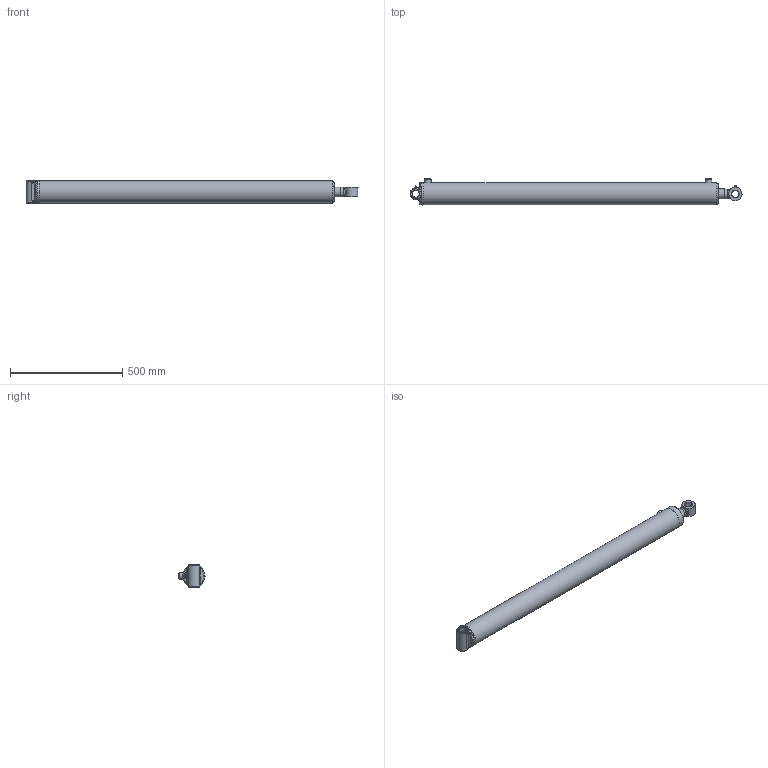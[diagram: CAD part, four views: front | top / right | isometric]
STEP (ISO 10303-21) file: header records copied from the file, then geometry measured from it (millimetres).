
FILE_DESCRIPTION(/* description */ ('Ø3.50 X 48.00 DA'),/* implementation_level */ '2;1');
FILE_NAME(/* name */ 'result.stp',/* time_stamp */ '2024-04-05T19:26:03Z',/* author */ ('AJC'),/* organization */ ('PRINCE MANUFACTURING'),/* preprocessor_version */ 'ST-DEVELOPER v20',/* originating_system */ 'Autodesk Inventor 2024',/* authorisation */ '');
FILE_SCHEMA (('AUTOMOTIVE_DESIGN { 1 0 10303 214 3 1 1 }'));
Length unit declared in the file: inch
Products named in the file (21): PC3548017A00-560XYXA; 0617-XYSF000-51570; 0517-T-51570; 161700179; 200015603; 06Weld1_C360; 0717-P-100; 220000210; 0817-G-175; 230025105; 230025005; 240000022; 240061338; 240000338; 0210A-HAW5-53687XA; 0110A-HAW5-53687; 210600529; 02Weld_C360; 240020007; 250014175; 270010020
Assembly tree (22 placements, depth 3):
  PC3548017A00-560XYXA
    0617-XYSF000-51570
      0517-T-51570
      161700179
      200015603  x2
      06Weld1_C360
    0717-P-100
    220000210
    0817-G-175
    230025105
    230025005
    240000022
    240061338
    240000338
    0210A-HAW5-53687XA
      0110A-HAW5-53687
      210600529
      02Weld_C360
    240020007
    250014175
    270010020  x2
Bounding box: 1477.92 x 116.74 x 101.6 mm (x, y, z)
Volume: 4578257 mm3; surface area: 1150768.5 mm2
Topology: 26 solids, 26 shells, 536 faces, 1281 edges, 823 vertices
Faces by surface type: plane 144, bspline 128, torus 89, cylinder 87, cone 84, sphere 4
Full cylindrical faces by diameter (mm): 2.143 x4, 3.175 x1, 5.359 x2, 6.35 x2, 9.525 x2, 12.649 x1, 12.7 x1, 12.725 x1, 17.323 x2, 23.444 x1, 25.349 x1, 25.476 x1, 27.965 x1, 28.575 x2, 32.131 x2, 44.45 x1, 44.526 x2, 45.644 x2, 46.482 x1, 46.838 x1, 51.613 x1, 52.807 x1, 54 x1, 55.626 x2, 57.15 x2, 61.976 x1, 69.85 x2, 79.477 x2, 80.213 x2, 83.82 x1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
Entity records: 29468 total; most frequent: CARTESIAN_POINT 17326, ORIENTED_EDGE 2352, DIRECTION 2142, EDGE_CURVE 1176, AXIS2_PLACEMENT_3D 908, VERTEX_POINT 762, EDGE_LOOP 572, FACE_OUTER_BOUND 492
